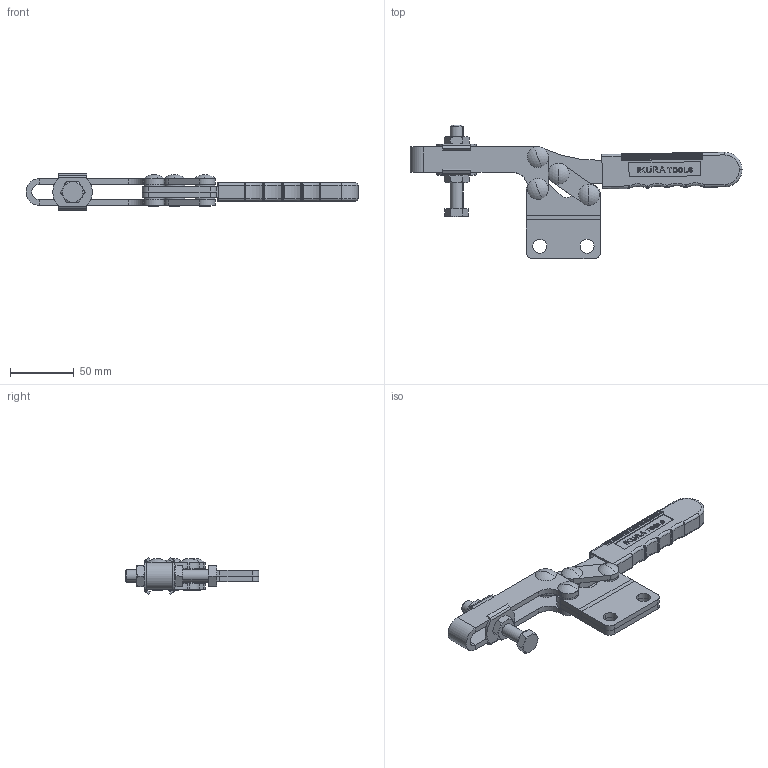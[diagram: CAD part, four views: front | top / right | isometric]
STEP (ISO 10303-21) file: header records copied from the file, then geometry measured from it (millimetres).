
FILE_DESCRIPTION (( 'STEP AP214' ), '1' );
FILE_NAME ('ISK-38DS.STEP', '2015-06-29T10:00:33', ( '' ), ( '' ), 'SwSTEP 2.0', 'SolidWorks 2015', '' );
FILE_SCHEMA (( 'AUTOMOTIVE_DESIGN' ));
Length unit declared in the file: millimetre
Products named in the file (11): Arm; Base; ISK-38DS; oval head semi-tubular rivets gb_GB_CONNECTING_PIECE_RIVET_OHSR 8X22; hexagon nut_3_jis_JIS B 1181 Hexagon nut - Class 3 Finished M10 --N; continuous thread hexagon head bolt_c_jis_JIS B 1180 Continuous thread hexagon head bolt C M10 x 65 --WN; Washer_D10-20; Grip; Washer_兂16亊兂8.2; Link; Handle
Assembly tree (23 placements, depth 2):
  ISK-38DS
    Base
    Arm
    Handle
    Link  x2
    Washer_兂16亊兂8.2  x8
    Grip
    Washer_D10-20  x2
    continuous thread hexagon head bolt_c_jis_JIS B 1180 Continuous thread hexagon head bolt C M10 x 65 --WN
    hexagon nut_3_jis_JIS B 1181 Hexagon nut - Class 3 Finished M10 --N  x2
    oval head semi-tubular rivets gb_GB_CONNECTING_PIECE_RIVET_OHSR 8X22  x4
Bounding box: 259.94 x 104.63 x 28.43 mm (x, y, z)
Volume: 121852.5 mm3; surface area: 67531 mm2
Topology: 24 solids, 24 shells, 1516 faces, 4136 edges, 2684 vertices
Faces by surface type: plane 861, cylinder 419, bspline 144, cone 48, sphere 24, torus 20
Entity records: 50462 total; most frequent: CARTESIAN_POINT 14984, ORIENTED_EDGE 7638, DIRECTION 6795, EDGE_CURVE 3819, LINE 2705, VECTOR 2705, VERTEX_POINT 2502, AXIS2_PLACEMENT_3D 2045
